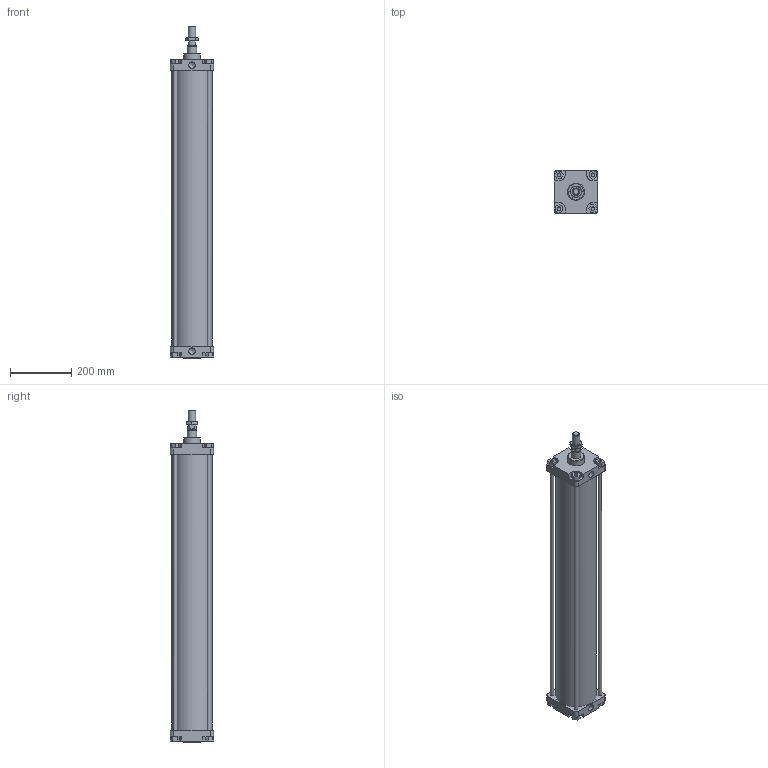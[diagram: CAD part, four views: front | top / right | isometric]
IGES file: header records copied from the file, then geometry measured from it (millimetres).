
Global section: file name: 1304_125_0800_01A; native system: Autodesk Inventor 2014; preprocessor: unknown; author: A. Manieri; date: 20161124.142534; units: millimetre
Bounding box: 140 x 140 x 1080 mm (x, y, z)
Volume: 5002258.8 mm3; surface area: 1165388.8 mm2
Topology: 9 solids, 9 shells, 175 faces, 440 edges, 295 vertices
Faces by surface type: bspline 175
